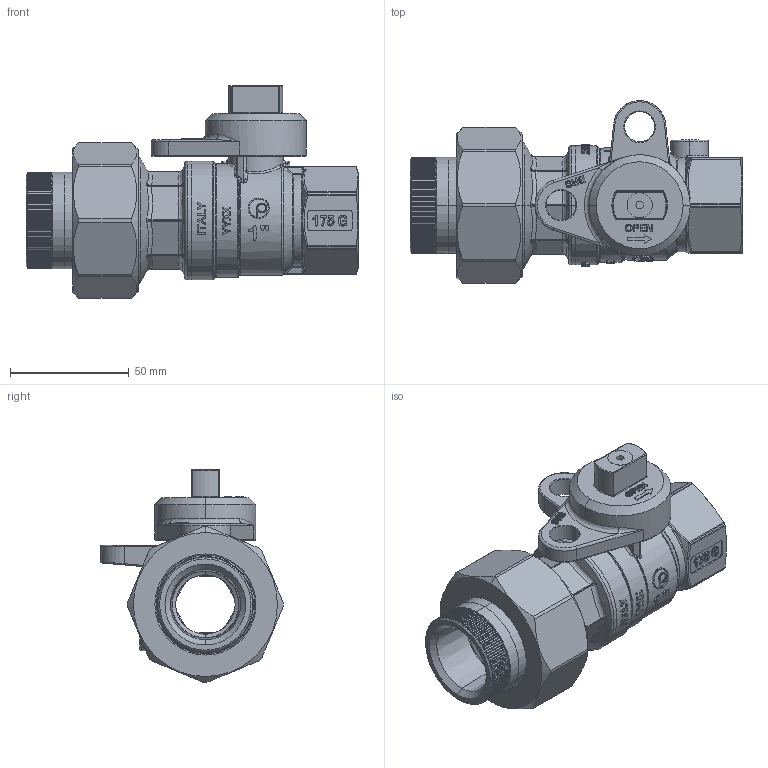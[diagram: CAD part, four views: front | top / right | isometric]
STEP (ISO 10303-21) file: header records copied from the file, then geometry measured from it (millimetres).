
FILE_DESCRIPTION(('Open CASCADE Model'),'2;1');
FILE_NAME('Open CASCADE Shape Model','2021-11-24T09:59:49',('Author'),( 'Open CASCADE'),'Open CASCADE STEP processor 7.3','Open CASCADE 7.3' ,'Unknown');
FILE_SCHEMA(('AUTOMOTIVE_DESIGN { 1 0 10303 214 1 1 1 1 }'));
Length unit declared in the file: millimetre
Products named in the file (18): Open CASCADE STEP translator 7.3 1; Open CASCADE STEP translator 7.3 1.1; Open CASCADE STEP translator 7.3 1.2; Open CASCADE STEP translator 7.3 1.3; Open CASCADE STEP translator 7.3 1.4; Open CASCADE STEP translator 7.3 1.5; Open CASCADE STEP translator 7.3 1.6; Open CASCADE STEP translator 7.3 1.7; Open CASCADE STEP translator 7.3 1.8; Open CASCADE STEP translator 7.3 1.9; Open CASCADE STEP translator 7.3 1.10; Open CASCADE STEP translator 7.3 1.11; Open CASCADE STEP translator 7.3 1.12; Open CASCADE STEP translator 7.3 1.13; Open CASCADE STEP translator 7.3 1.14; Open CASCADE STEP translator 7.3 1.15; Open CASCADE STEP translator 7.3 1.16; Open CASCADE STEP translator 7.3 1.17
Assembly tree (17 placements, depth 2):
  Open CASCADE STEP translator 7.3 1
    Open CASCADE STEP translator 7.3 1.1
    Open CASCADE STEP translator 7.3 1.2
    Open CASCADE STEP translator 7.3 1.3
    Open CASCADE STEP translator 7.3 1.4
    Open CASCADE STEP translator 7.3 1.5
    Open CASCADE STEP translator 7.3 1.6
    Open CASCADE STEP translator 7.3 1.7
    Open CASCADE STEP translator 7.3 1.8
    Open CASCADE STEP translator 7.3 1.9
    Open CASCADE STEP translator 7.3 1.10
    Open CASCADE STEP translator 7.3 1.11
    Open CASCADE STEP translator 7.3 1.12
    Open CASCADE STEP translator 7.3 1.13
    Open CASCADE STEP translator 7.3 1.14
    Open CASCADE STEP translator 7.3 1.15
    Open CASCADE STEP translator 7.3 1.16
    Open CASCADE STEP translator 7.3 1.17
Bounding box: 139.5 x 76.75 x 89.45 mm (x, y, z)
Volume: 204802.5 mm3; surface area: 96403.9 mm2
Topology: 17 solids, 17 shells, 2563 faces, 6764 edges, 4317 vertices
Faces by surface type: extrusion 956, plane 702, cylinder 346, bspline 171, cone 167, torus 144, sphere 41, revolution 36
Entity records: 262323 total; most frequent: CARTESIAN_POINT 141877, DIRECTION 16626, ORIENTED_EDGE 13518, PCURVE 13518, DEFINITIONAL_REPRESENTATION 13518, VECTOR 10464, B_SPLINE_CURVE_WITH_KNOTS 9750, LINE 9508
